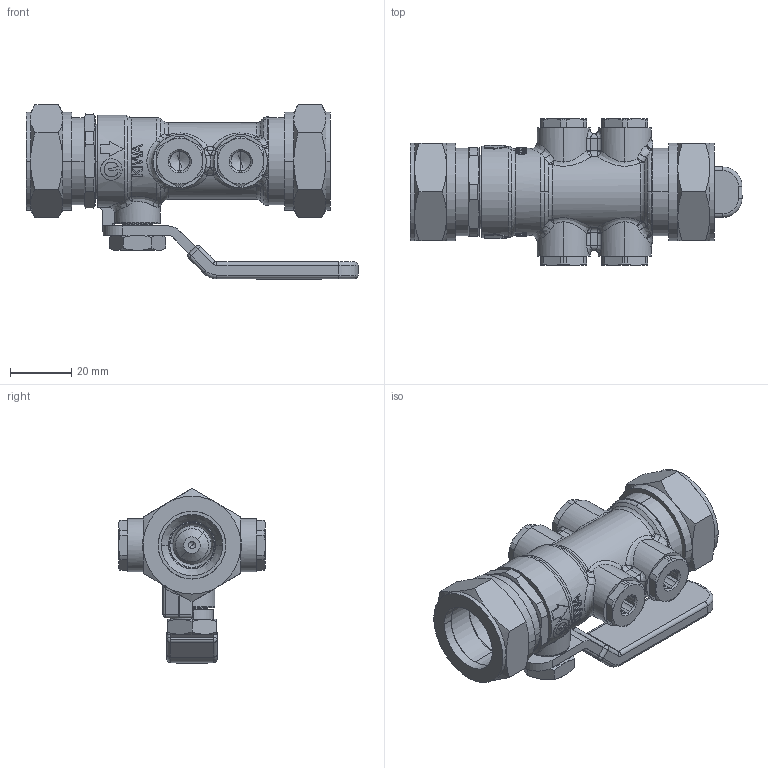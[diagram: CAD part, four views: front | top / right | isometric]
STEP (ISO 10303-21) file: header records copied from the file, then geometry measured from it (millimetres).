
FILE_DESCRIPTION (( 'STEP AP214' ), '1' );
FILE_NAME ('W228020242.STEP', '2018-09-17T07:06:34', ( '' ), ( '' ), 'SwSTEP 2.0', 'SolidWorks 2017', '' );
FILE_SCHEMA (( 'AUTOMOTIVE_DESIGN' ));
Length unit declared in the file: millimetre
Products named in the file (20): 22019272_ogive; W098020100_A; W097020109_A; W098015202; W092020317; W098015205; W228020242; 10088; W093003102_00A; W022020070_JT; 22019272_ressort; W149020618_closed; 22012537_housing; W034020501_W034020515UsComp22; 22019272_Membrane; W098015209_W098015212_PerceeEnrobee; W098020211_00A_P627 4 pour 20 et 25; 22019272_Torpedo; W022014070; 9696
Assembly tree (28 placements, depth 3):
  W228020242
    W034020501_W034020515UsComp22
    W098020211_00A_P627 4 pour 20 et 25
    W098015209_W098015212_PerceeEnrobee
    9696
    10088
    W092020317
    W098015202
    W098015205  x2
    W097020109_A  x2
    W098020100_A  x2
    W149020618_closed
      22019272_Torpedo
      22012537_housing
      22019272_Membrane
      22019272_ogive
      22019272_ressort
    W022020070_JT
    W093003102_00A  x4
    W022014070  x4
Bounding box: 108.6 x 48 x 57.13 mm (x, y, z)
Volume: 59782 mm3; surface area: 48551.9 mm2
Topology: 28 solids, 28 shells, 1283 faces, 3151 edges, 1929 vertices
Faces by surface type: plane 485, cylinder 308, cone 229, bspline 162, torus 87, sphere 12
Entity records: 43691 total; most frequent: CARTESIAN_POINT 18847, ORIENTED_EDGE 5154, DIRECTION 4680, EDGE_CURVE 2577, AXIS2_PLACEMENT_3D 1854, VERTEX_POINT 1595, EDGE_LOOP 1142, ADVANCED_FACE 1058
